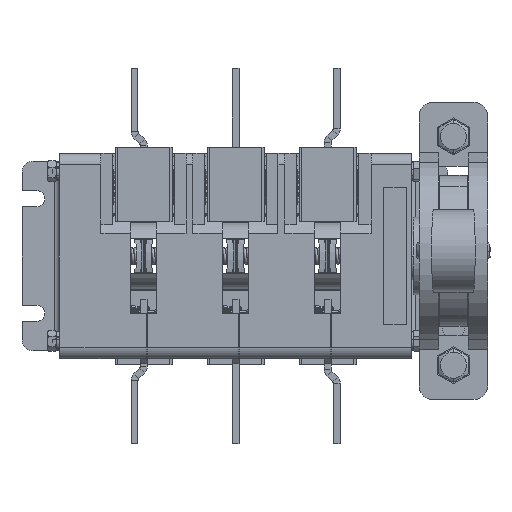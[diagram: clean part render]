
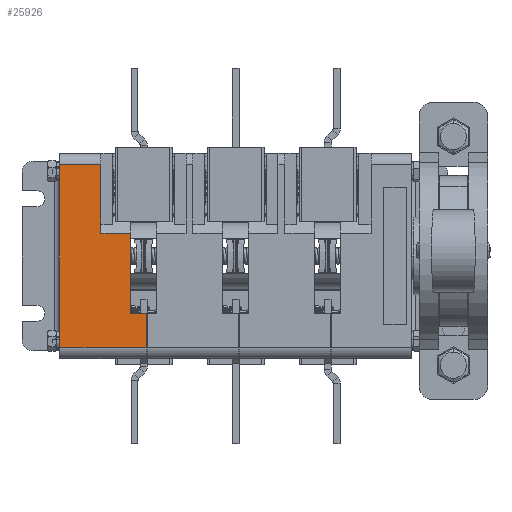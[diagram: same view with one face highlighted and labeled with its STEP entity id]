
A CAD part, front view. The second image highlights one B-rep face of the part: STEP entity #25926.
In plain terms, the highlighted planar face has unit normal (0, -1, 0) as drawn and (0, 1, 0) by its records, which use the part's own axes.
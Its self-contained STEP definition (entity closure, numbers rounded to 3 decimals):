
#1705 = CARTESIAN_POINT ( 'NONE',  ( 25., 21., -8. ) ) ;
#1731 = VECTOR ( 'NONE', #69225, 1000. ) ;
#2038 = LINE ( 'NONE', #66279, #6276 ) ;
#2342 = ORIENTED_EDGE ( 'NONE', *, *, #27977, .F. ) ;
#3482 = EDGE_CURVE ( 'NONE', #31089, #53613, #12196, .T. ) ;
#4795 = EDGE_CURVE ( 'NONE', #31089, #7074, #24776, .T. ) ;
#5136 = EDGE_CURVE ( 'NONE', #51662, #53613, #16257, .T. ) ;
#6276 = VECTOR ( 'NONE', #17613, 1000. ) ;
#7074 = VERTEX_POINT ( 'NONE', #44440 ) ;
#7379 = ORIENTED_EDGE ( 'NONE', *, *, #3482, .F. ) ;
#8444 = EDGE_CURVE ( 'NONE', #49688, #15658, #44074, .T. ) ;
#10351 = DIRECTION ( 'NONE',  ( 0., 0., 1. ) ) ;
#10732 = CARTESIAN_POINT ( 'NONE',  ( -45., 21., 23. ) ) ;
#12108 = VECTOR ( 'NONE', #36807, 1000. ) ;
#12196 = LINE ( 'NONE', #37282, #12108 ) ;
#12752 = CARTESIAN_POINT ( 'NONE',  ( -40., 21., 23. ) ) ;
#14633 = VECTOR ( 'NONE', #22012, 1000. ) ;
#15658 = VERTEX_POINT ( 'NONE', #35765 ) ;
#16196 = ORIENTED_EDGE ( 'NONE', *, *, #57987, .T. ) ;
#16201 = CARTESIAN_POINT ( 'NONE',  ( 25., 21., -8. ) ) ;
#16257 = LINE ( 'NONE', #31074, #1731 ) ;
#17613 = DIRECTION ( 'NONE',  ( 1., 0., 0. ) ) ;
#17659 = VECTOR ( 'NONE', #21889, 1000. ) ;
#19577 = EDGE_CURVE ( 'NONE', #49688, #39395, #45351, .T. ) ;
#21192 = AXIS2_PLACEMENT_3D ( 'NONE', #10732, #27416, #64894 ) ;
#21889 = DIRECTION ( 'NONE',  ( 0., 0., 1. ) ) ;
#22012 = DIRECTION ( 'NONE',  ( 1., 0., 0. ) ) ;
#22328 = LINE ( 'NONE', #50106, #14633 ) ;
#24657 = CARTESIAN_POINT ( 'NONE',  ( -10., 21., -8. ) ) ;
#24776 = LINE ( 'NONE', #60384, #64917 ) ;
#25926 = ADVANCED_FACE ( 'NONE', ( #69514 ), #42960, .F. ) ;
#27416 = DIRECTION ( 'NONE',  ( 0., -1., 0. ) ) ;
#27957 = ORIENTED_EDGE ( 'NONE', *, *, #8444, .T. ) ;
#27977 = EDGE_CURVE ( 'NONE', #65953, #7074, #2038, .T. ) ;
#30489 = EDGE_CURVE ( 'NONE', #51662, #15658, #22328, .T. ) ;
#31074 = CARTESIAN_POINT ( 'NONE',  ( -40., 21., 23. ) ) ;
#31089 = VERTEX_POINT ( 'NONE', #32889 ) ;
#32589 = CARTESIAN_POINT ( 'NONE',  ( -10., 21., -8. ) ) ;
#32889 = CARTESIAN_POINT ( 'NONE',  ( 40., 21., 23. ) ) ;
#33185 = DIRECTION ( 'NONE',  ( 0., 0., -1. ) ) ;
#34688 = ORIENTED_EDGE ( 'NONE', *, *, #4795, .T. ) ;
#35765 = CARTESIAN_POINT ( 'NONE',  ( -10., 21., 5. ) ) ;
#36807 = DIRECTION ( 'NONE',  ( -1., 0., 0. ) ) ;
#37282 = CARTESIAN_POINT ( 'NONE',  ( -45., 21., 23. ) ) ;
#39395 = VERTEX_POINT ( 'NONE', #16201 ) ;
#41081 = VECTOR ( 'NONE', #56075, 1000. ) ;
#42575 = CARTESIAN_POINT ( 'NONE',  ( 25., 21., -15. ) ) ;
#42960 = PLANE ( 'NONE',  #21192 ) ;
#44074 = LINE ( 'NONE', #32589, #17659 ) ;
#44440 = CARTESIAN_POINT ( 'NONE',  ( 40., 21., -15. ) ) ;
#45351 = LINE ( 'NONE', #1705, #41081 ) ;
#48136 = ORIENTED_EDGE ( 'NONE', *, *, #30489, .F. ) ;
#49688 = VERTEX_POINT ( 'NONE', #24657 ) ;
#50106 = CARTESIAN_POINT ( 'NONE',  ( -10., 21., 5. ) ) ;
#51035 = ORIENTED_EDGE ( 'NONE', *, *, #19577, .F. ) ;
#51662 = VERTEX_POINT ( 'NONE', #52489 ) ;
#52489 = CARTESIAN_POINT ( 'NONE',  ( -40., 21., 5. ) ) ;
#52725 = LINE ( 'NONE', #42575, #65559 ) ;
#53613 = VERTEX_POINT ( 'NONE', #12752 ) ;
#56075 = DIRECTION ( 'NONE',  ( 1., 0., 0. ) ) ;
#57987 = EDGE_CURVE ( 'NONE', #65953, #39395, #52725, .T. ) ;
#60233 = EDGE_LOOP ( 'NONE', ( #27957, #48136, #66623, #7379, #34688, #2342, #16196, #51035 ) ) ;
#60384 = CARTESIAN_POINT ( 'NONE',  ( 40., 21., 23. ) ) ;
#60521 = CARTESIAN_POINT ( 'NONE',  ( 25., 21., -15. ) ) ;
#64894 = DIRECTION ( 'NONE',  ( 0., 0., -1. ) ) ;
#64917 = VECTOR ( 'NONE', #33185, 1000. ) ;
#65559 = VECTOR ( 'NONE', #10351, 1000. ) ;
#65953 = VERTEX_POINT ( 'NONE', #60521 ) ;
#66279 = CARTESIAN_POINT ( 'NONE',  ( 40., 21., -15. ) ) ;
#66623 = ORIENTED_EDGE ( 'NONE', *, *, #5136, .T. ) ;
#69225 = DIRECTION ( 'NONE',  ( 0., 0., 1. ) ) ;
#69514 = FACE_OUTER_BOUND ( 'NONE', #60233, .T. ) ;
